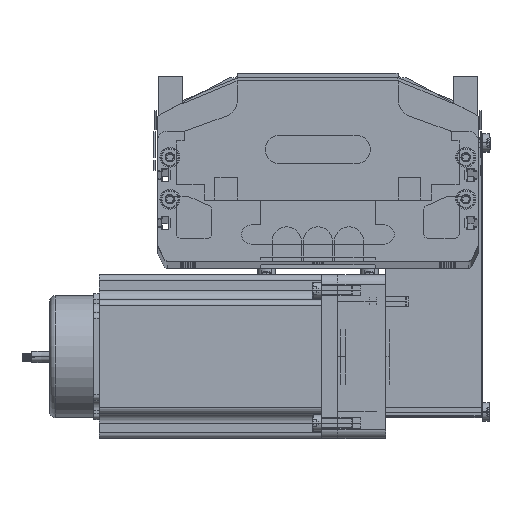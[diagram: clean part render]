
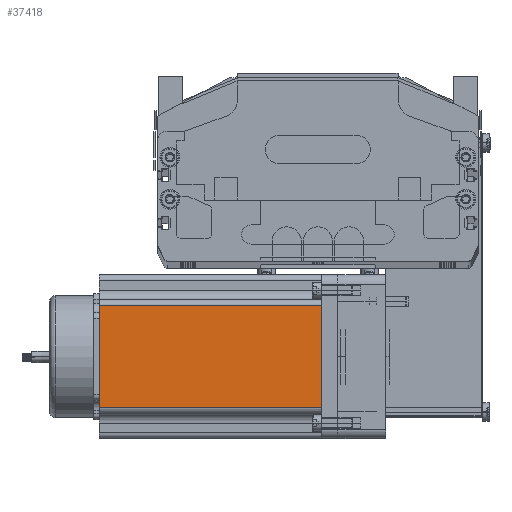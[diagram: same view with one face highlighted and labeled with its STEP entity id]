
A CAD part, top view. The second image highlights one B-rep face of the part: STEP entity #37418.
In plain terms, the highlighted planar face has unit normal (0, 0, 1) as drawn and (0, -1, 0) by its records, which use the part's own axes.
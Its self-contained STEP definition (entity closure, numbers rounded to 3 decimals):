
#37170 = ORIENTED_EDGE ( 'NONE', *, *, #37521, .T. ) ;
#37171 = EDGE_CURVE ( 'NONE', #37215, #37173, #48889, .T. ) ;
#37173 = VERTEX_POINT ( 'NONE', #49093 ) ;
#37183 = ORIENTED_EDGE ( 'NONE', *, *, #37171, .T. ) ;
#37214 = VERTEX_POINT ( 'NONE', #49565 ) ;
#37215 = VERTEX_POINT ( 'NONE', #49530 ) ;
#37255 = ORIENTED_EDGE ( 'NONE', *, *, #37310, .T. ) ;
#37287 = EDGE_CURVE ( 'NONE', #37419, #37173, #49745, .T. ) ;
#37289 = ORIENTED_EDGE ( 'NONE', *, *, #37287, .F. ) ;
#37310 = EDGE_CURVE ( 'NONE', #37419, #37214, #49791, .T. ) ;
#37418 = ADVANCED_FACE ( 'NONE', ( #50320 ), #50759, .F. ) ;
#37419 = VERTEX_POINT ( 'NONE', #50509 ) ;
#37499 = EDGE_LOOP ( 'NONE', ( #37170, #37183, #37289, #37255 ) ) ;
#37521 = EDGE_CURVE ( 'NONE', #37214, #37215, #51459, .T. ) ;
#48886 = CARTESIAN_POINT ( 'NONE',  ( 69.74, 0., 116.5 ) ) ;
#48889 = LINE ( 'NONE', #48886, #49089 ) ;
#49088 = DIRECTION ( 'NONE',  ( 0., 0., 1. ) ) ;
#49089 = VECTOR ( 'NONE', #49088, 1000. ) ;
#49093 = CARTESIAN_POINT ( 'NONE',  ( 69.74, 0., 116.5 ) ) ;
#49530 = CARTESIAN_POINT ( 'NONE',  ( 69.74, 0., 0. ) ) ;
#49565 = CARTESIAN_POINT ( 'NONE',  ( 16.16, 0., 0. ) ) ;
#49745 = LINE ( 'NONE', #49917, #50020 ) ;
#49790 = CARTESIAN_POINT ( 'NONE',  ( 16.16, 0., 116.5 ) ) ;
#49791 = LINE ( 'NONE', #49790, #49857 ) ;
#49856 = DIRECTION ( 'NONE',  ( 0., 0., -1. ) ) ;
#49857 = VECTOR ( 'NONE', #49856, 1000. ) ;
#49916 = DIRECTION ( 'NONE',  ( 1., 0., 0. ) ) ;
#49917 = CARTESIAN_POINT ( 'NONE',  ( 0., 0., 116.5 ) ) ;
#50020 = VECTOR ( 'NONE', #49916, 1000. ) ;
#50320 = FACE_OUTER_BOUND ( 'NONE', #37499, .T. ) ;
#50478 = DIRECTION ( 'NONE',  ( 0., 1., 0. ) ) ;
#50480 = CARTESIAN_POINT ( 'NONE',  ( 0., 0., 116.5 ) ) ;
#50509 = CARTESIAN_POINT ( 'NONE',  ( 16.16, 0., 116.5 ) ) ;
#50759 = PLANE ( 'NONE',  #50774 ) ;
#50774 = AXIS2_PLACEMENT_3D ( 'NONE', #50480, #50478, #50882 ) ;
#50882 = DIRECTION ( 'NONE',  ( 0., 0., 1. ) ) ;
#51348 = DIRECTION ( 'NONE',  ( 1., 0., 0. ) ) ;
#51349 = VECTOR ( 'NONE', #51348, 1000. ) ;
#51456 = CARTESIAN_POINT ( 'NONE',  ( 0., 0., 0. ) ) ;
#51459 = LINE ( 'NONE', #51456, #51349 ) ;
